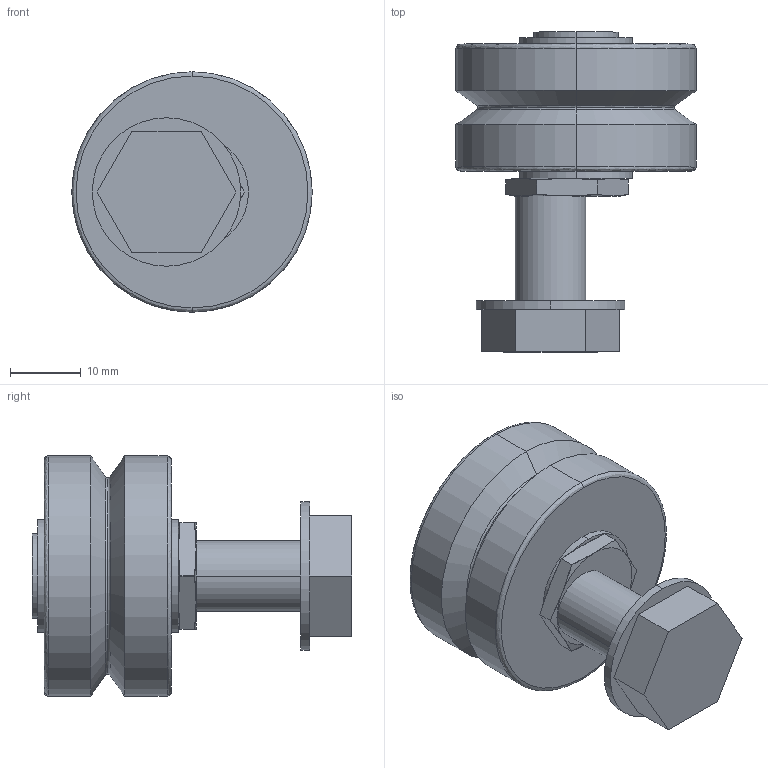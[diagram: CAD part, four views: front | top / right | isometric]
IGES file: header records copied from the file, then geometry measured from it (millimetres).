
Start section: 3D InterOp IGES (Version 21 0 1), Spatial Corp. Copyright (c) 1999-2007.
Global section: file name: RLFJ34DENS.igs; native system: Spatial Corp.; preprocessor: 3D InterOp GENERIC/IGES 3.0; author: Noname; organization: Noname; date: 20220627.163856; units: millimetre
Bounding box: 34 x 45.25 x 34 mm (x, y, z)
Surface area: 9145.7 mm2 (no closed solid volume)
Topology: 0 solids, 0 shells, 72 faces, 306 edges, 304 vertices
Faces by surface type: revolution 42, extrusion 30
